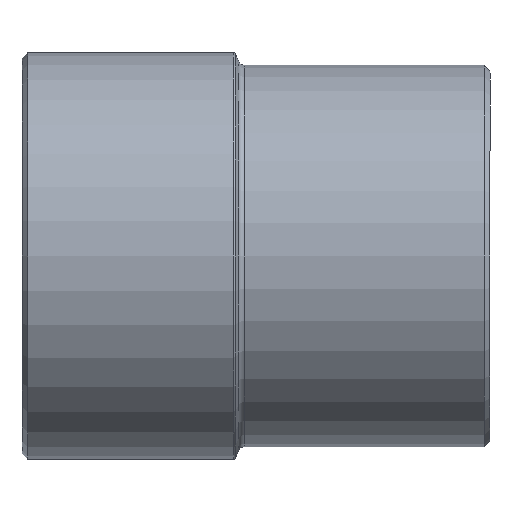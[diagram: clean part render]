
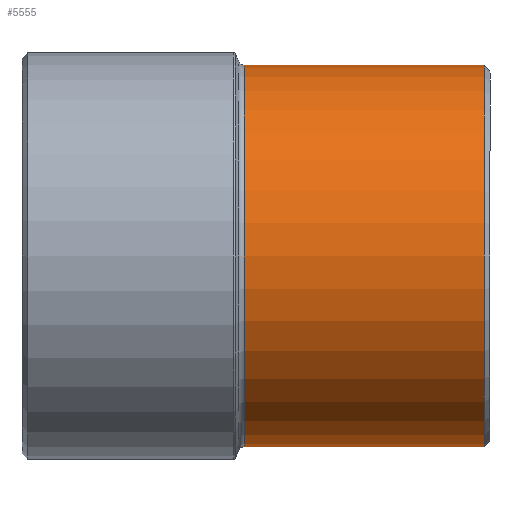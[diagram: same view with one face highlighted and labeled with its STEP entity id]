
A CAD part, front view. The second image highlights one B-rep face of the part: STEP entity #5555.
In plain terms, the highlighted cylindrical face has radius 67.25 mm (diameter 134.5 mm), a partial arc.
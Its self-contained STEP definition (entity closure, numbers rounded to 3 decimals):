
#2473 = VECTOR ( 'NONE', #21692, 1000. ) ;
#2482 = VECTOR ( 'NONE', #21741, 1000. ) ;
#4156 = CARTESIAN_POINT ( 'NONE',  ( -0.718, 0., 0. ) ) ;
#4157 = DIRECTION ( 'NONE',  ( 1., 0., 0. ) ) ;
#4158 = DIRECTION ( 'NONE',  ( 0., 0., -1. ) ) ;
#4520 = CIRCLE ( 'NONE', #4523, 67.25 ) ;
#4523 = AXIS2_PLACEMENT_3D ( 'NONE', #11346, #11347, #11348 ) ;
#5555 = ADVANCED_FACE ( 'NONE', ( #13866 ), #13870, .T. ) ;
#5956 = EDGE_CURVE ( 'NONE', #10505, #10522, #21688, .T. ) ;
#5968 = EDGE_CURVE ( 'NONE', #10476, #10533, #21696, .T. ) ;
#9040 = ORIENTED_EDGE ( 'NONE', *, *, #5968, .F. ) ;
#9041 = ORIENTED_EDGE ( 'NONE', *, *, #13197, .T. ) ;
#9042 = ORIENTED_EDGE ( 'NONE', *, *, #5956, .T. ) ;
#9043 = ORIENTED_EDGE ( 'NONE', *, *, #20620, .T. ) ;
#10476 = VERTEX_POINT ( 'NONE', #22447 ) ;
#10505 = VERTEX_POINT ( 'NONE', #22476 ) ;
#10522 = VERTEX_POINT ( 'NONE', #22493 ) ;
#10533 = VERTEX_POINT ( 'NONE', #22504 ) ;
#11346 = CARTESIAN_POINT ( 'NONE',  ( 84., 0., 0. ) ) ;
#11347 = DIRECTION ( 'NONE',  ( -1., 0., 0. ) ) ;
#11348 = DIRECTION ( 'NONE',  ( 0., 0., 1. ) ) ;
#13197 = EDGE_CURVE ( 'NONE', #10476, #10505, #22871, .T. ) ;
#13730 = AXIS2_PLACEMENT_3D ( 'NONE', #13868, #13865, #13871 ) ;
#13865 = DIRECTION ( 'NONE',  ( 1., 0., 0. ) ) ;
#13866 = FACE_OUTER_BOUND ( 'NONE', #19492, .T. ) ;
#13868 = CARTESIAN_POINT ( 'NONE',  ( 90.267, 0., 0. ) ) ;
#13870 = CYLINDRICAL_SURFACE ( 'NONE', #13730, 67.25 ) ;
#13871 = DIRECTION ( 'NONE',  ( 0., 0., -1. ) ) ;
#19492 = EDGE_LOOP ( 'NONE', ( #9040, #9041, #9042, #9043 ) ) ;
#20620 = EDGE_CURVE ( 'NONE', #10522, #10533, #4520, .T. ) ;
#21678 = CARTESIAN_POINT ( 'NONE',  ( 90.267, 0., -67.25 ) ) ;
#21688 = LINE ( 'NONE', #21678, #2473 ) ;
#21692 = DIRECTION ( 'NONE',  ( 1., 0., 0. ) ) ;
#21696 = LINE ( 'NONE', #21739, #2482 ) ;
#21739 = CARTESIAN_POINT ( 'NONE',  ( 90.267, 0., 67.25 ) ) ;
#21741 = DIRECTION ( 'NONE',  ( 1., 0., 0. ) ) ;
#22447 = CARTESIAN_POINT ( 'NONE',  ( -0.718, 0., 67.25 ) ) ;
#22476 = CARTESIAN_POINT ( 'NONE',  ( -0.718, 0., -67.25 ) ) ;
#22493 = CARTESIAN_POINT ( 'NONE',  ( 84., 0., -67.25 ) ) ;
#22504 = CARTESIAN_POINT ( 'NONE',  ( 84., 0., 67.25 ) ) ;
#22871 = CIRCLE ( 'NONE', #22876, 67.25 ) ;
#22876 = AXIS2_PLACEMENT_3D ( 'NONE', #4156, #4157, #4158 ) ;
